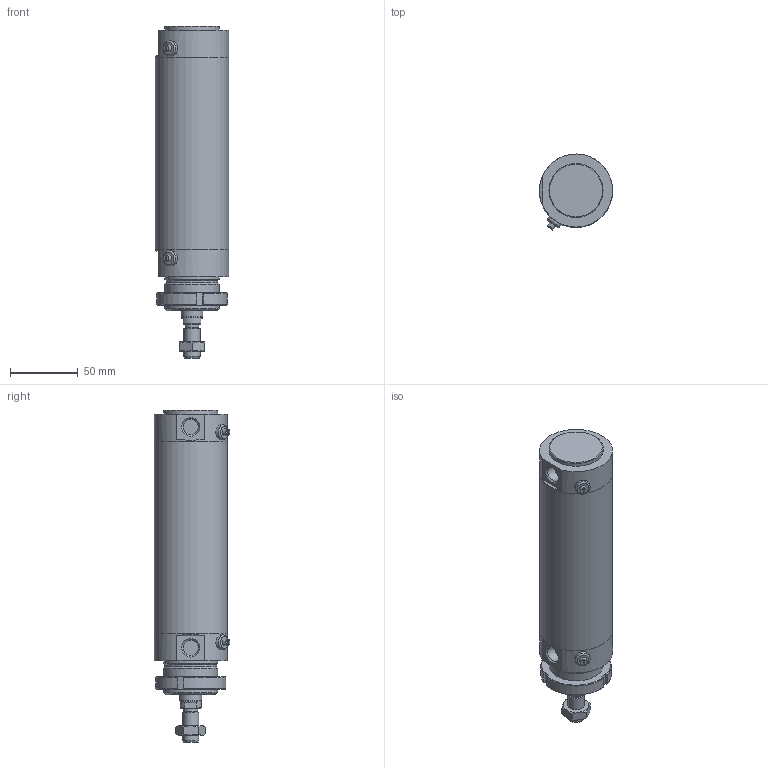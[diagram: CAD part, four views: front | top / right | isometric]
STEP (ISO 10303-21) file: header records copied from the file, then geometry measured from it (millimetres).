
FILE_DESCRIPTION(/* description */ (''),/* implementation_level */ '2;1');
FILE_NAME(/* name */ 'I:\Area Tecnica\Documenti\A-Manieri\_Inventor\12X\12X#D_###_####_#_#\12XBD_050_0100_#_#.stp',/* time_stamp */ '2015-05-04T15:12:44+02:00',/* author */ ('maniean1'),/* organization */ ('Pneumax S.p.A.'),/* preprocessor_version */ 'ST-DEVELOPER v15.2',/* originating_system */ 'Autodesk Inventor 2014',/* authorisation */ '');
FILE_SCHEMA (('AUTOMOTIVE_DESIGN { 1 0 10303 214 3 1 1 }'));
Length unit declared in the file: millimetre
Products named in the file (7): C1250_619-0100; 12X50_606; S12X50_0100; 12X_50_11; 12X50_612; G12X_050_05; 12XBD_050_0100_#_#
Bounding box: 54 x 55.88 x 245 mm (x, y, z)
Volume: 288958.9 mm3; surface area: 93547.8 mm2
Topology: 6 solids, 6 shells, 99 faces, 217 edges, 140 vertices
Faces by surface type: plane 53, cylinder 25, cone 19, torus 2
Full cylindrical faces by diameter (mm): 5 x2, 10.2 x1, 11 x2, 11.4 x2, 12 x2, 14 x1, 15.6 x1, 16 x1, 38.2 x1, 40 x4, 50 x2, 54 x3
Entity records: 2667 total; most frequent: CARTESIAN_POINT 540, DIRECTION 444, ORIENTED_EDGE 348, AXIS2_PLACEMENT_3D 188, EDGE_CURVE 174, EDGE_LOOP 152, VERTEX_POINT 132, ADVANCED_FACE 99
